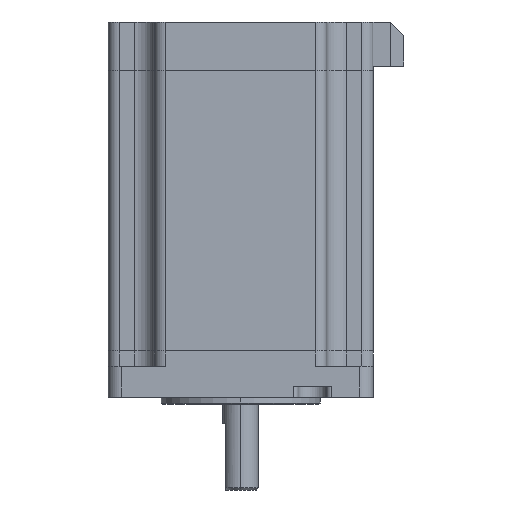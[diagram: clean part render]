
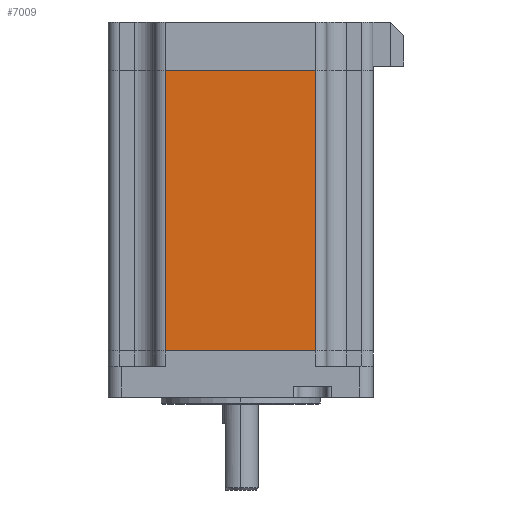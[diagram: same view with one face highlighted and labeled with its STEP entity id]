
A CAD part, left-side view. The second image highlights one B-rep face of the part: STEP entity #7009.
In plain terms, the highlighted planar face has unit normal (-1, 0, 0).
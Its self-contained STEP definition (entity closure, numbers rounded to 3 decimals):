
#135 = DIRECTION ( 'NONE',  ( 0., 0., -1. ) ) ;
#602 = VECTOR ( 'NONE', #135, 1000. ) ;
#920 = DIRECTION ( 'NONE',  ( 1., 0., 0. ) ) ;
#921 = DIRECTION ( 'NONE',  ( 0., -1., 0. ) ) ;
#1212 = ORIENTED_EDGE ( 'NONE', *, *, #6514, .T. ) ;
#1412 = DIRECTION ( 'NONE',  ( 0., 1., 0. ) ) ;
#1472 = ORIENTED_EDGE ( 'NONE', *, *, #3712, .T. ) ;
#1492 = VERTEX_POINT ( 'NONE', #3747 ) ;
#1543 = VECTOR ( 'NONE', #2958, 1000. ) ;
#1749 = VERTEX_POINT ( 'NONE', #2374 ) ;
#1798 = CARTESIAN_POINT ( 'NONE',  ( -30., 17., 74. ) ) ;
#2113 = CARTESIAN_POINT ( 'NONE',  ( -30., 17., 10.5 ) ) ;
#2248 = CARTESIAN_POINT ( 'NONE',  ( -30., -17., 74. ) ) ;
#2344 = LINE ( 'NONE', #1798, #602 ) ;
#2374 = CARTESIAN_POINT ( 'NONE',  ( -30., 17., 74. ) ) ;
#2512 = CARTESIAN_POINT ( 'NONE',  ( -30., -17., 10.5 ) ) ;
#2703 = DIRECTION ( 'NONE',  ( 0., -1., 0. ) ) ;
#2706 = VERTEX_POINT ( 'NONE', #2512 ) ;
#2958 = DIRECTION ( 'NONE',  ( 0., 0., -1. ) ) ;
#3270 = VERTEX_POINT ( 'NONE', #2248 ) ;
#3442 = EDGE_CURVE ( 'NONE', #1749, #3270, #3726, .T. ) ;
#3712 = EDGE_CURVE ( 'NONE', #1492, #2706, #3882, .T. ) ;
#3726 = LINE ( 'NONE', #5959, #3959 ) ;
#3747 = CARTESIAN_POINT ( 'NONE',  ( -30., 17., 10.5 ) ) ;
#3843 = VECTOR ( 'NONE', #2703, 1000. ) ;
#3882 = LINE ( 'NONE', #2113, #3843 ) ;
#3959 = VECTOR ( 'NONE', #921, 1000. ) ;
#3998 = ORIENTED_EDGE ( 'NONE', *, *, #3442, .F. ) ;
#4790 = LINE ( 'NONE', #6962, #1543 ) ;
#4854 = PLANE ( 'NONE',  #6021 ) ;
#5440 = CARTESIAN_POINT ( 'NONE',  ( -30., 17., 74. ) ) ;
#5644 = EDGE_CURVE ( 'NONE', #3270, #2706, #4790, .T. ) ;
#5959 = CARTESIAN_POINT ( 'NONE',  ( -30., 17., 74. ) ) ;
#6021 = AXIS2_PLACEMENT_3D ( 'NONE', #5440, #920, #1412 ) ;
#6442 = FACE_OUTER_BOUND ( 'NONE', #6500, .T. ) ;
#6500 = EDGE_LOOP ( 'NONE', ( #1472, #7239, #3998, #1212 ) ) ;
#6514 = EDGE_CURVE ( 'NONE', #1749, #1492, #2344, .T. ) ;
#6962 = CARTESIAN_POINT ( 'NONE',  ( -30., -17., 74. ) ) ;
#7009 = ADVANCED_FACE ( 'NONE', ( #6442 ), #4854, .F. ) ;
#7239 = ORIENTED_EDGE ( 'NONE', *, *, #5644, .F. ) ;
